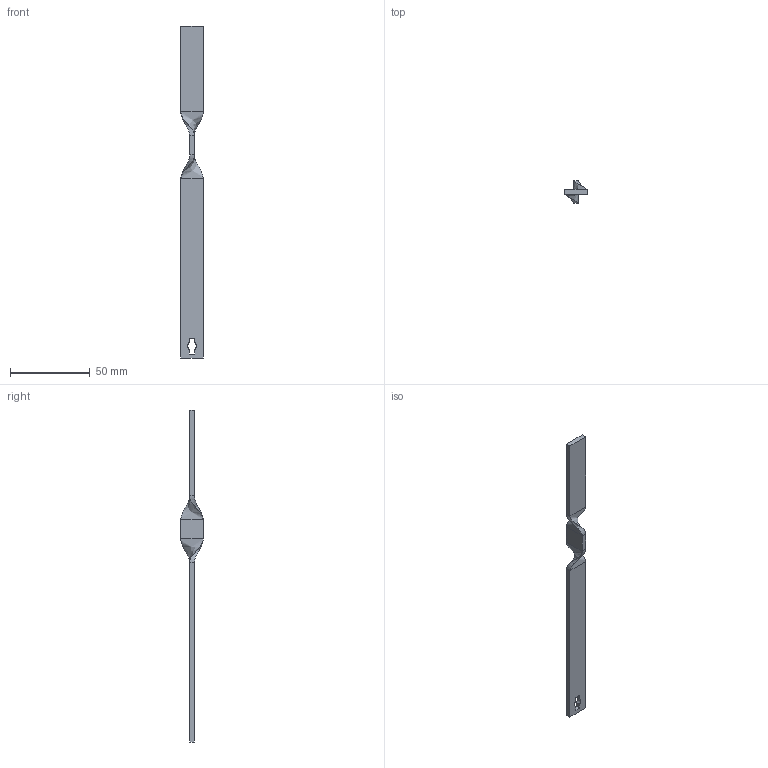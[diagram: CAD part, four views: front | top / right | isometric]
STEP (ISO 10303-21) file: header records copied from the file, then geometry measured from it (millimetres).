
FILE_DESCRIPTION (( 'STEP AP214' ), '1' );
FILE_NAME ('PP190-210.STEP', '2016-09-08T07:50:20', ( '' ), ( '' ), 'SwSTEP 2.0', 'SolidWorks 2015', '' );
FILE_SCHEMA (( 'AUTOMOTIVE_DESIGN' ));
Length unit declared in the file: millimetre
Products named in the file (1): PP190-210
Bounding box: 14 x 14 x 208.5 mm (x, y, z)
Volume: 8323.6 mm3; surface area: 7089 mm2
Topology: 1 solids, 1 shells, 30 faces, 68 edges, 40 vertices
Faces by surface type: plane 20, bspline 8, cylinder 2
Entity records: 982 total; most frequent: CARTESIAN_POINT 315, ORIENTED_EDGE 136, DIRECTION 110, EDGE_CURVE 68, LINE 56, VECTOR 56, VERTEX_POINT 40, EDGE_LOOP 32
